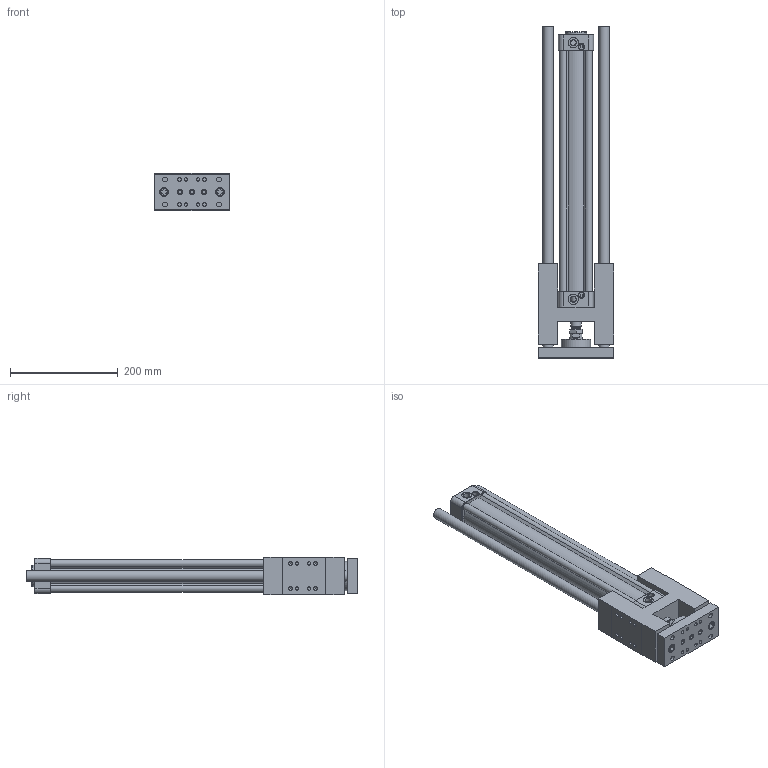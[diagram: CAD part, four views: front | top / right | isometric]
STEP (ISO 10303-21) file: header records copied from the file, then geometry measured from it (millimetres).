
FILE_DESCRIPTION((''),'2;1');
FILE_NAME('I:\3D電子目錄\氣缸\GHB(U)\GHB(U)\GHB(U)50\GHB(U)50x400.stp','2007-10-19T16:42:09',('Administrator'),(''),'Autodesk Inventor 11','Autodesk Inventor 11','');
FILE_SCHEMA(('AUTOMOTIVE_DESIGN { 1 0 10303 214 1 1 1 1 }'));
Length unit declared in the file: millimetre
Products named in the file (1): GHB(U)50
Bounding box: 141 x 616 x 70 mm (x, y, z)
Volume: 1934333.4 mm3; surface area: 477362.6 mm2
Topology: 1 solids, 13 shells, 779 faces, 1736 edges, 1075 vertices
Faces by surface type: plane 299, bspline 222, cylinder 163, cone 88, torus 7
Full cylindrical faces by diameter (mm): 2.5 x2, 6 x8, 6.647 x4, 6.7 x2, 6.75 x4, 7.25 x2, 7.4 x4, 7.5 x2, 8.5 x9, 9 x2, 9.8 x4, 10 x5, 11.5 x1, 11.9 x1, 12 x3, 13 x4, 14 x8, 14.5 x2, 16 x3, 19 x2, 20 x4, 23 x1, 25 x1, 26 x2, 40 x1, 50 x1, 54 x1
Entity records: 22633 total; most frequent: CARTESIAN_POINT 7068, DIRECTION 3100, ORIENTED_EDGE 3020, EDGE_CURVE 1510, AXIS2_PLACEMENT_3D 1202, EDGE_LOOP 1071, VERTEX_POINT 1029, FACE_OUTER_BOUND 778
